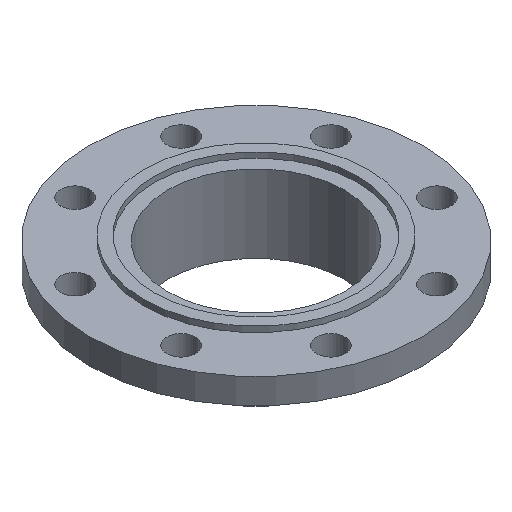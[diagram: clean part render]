
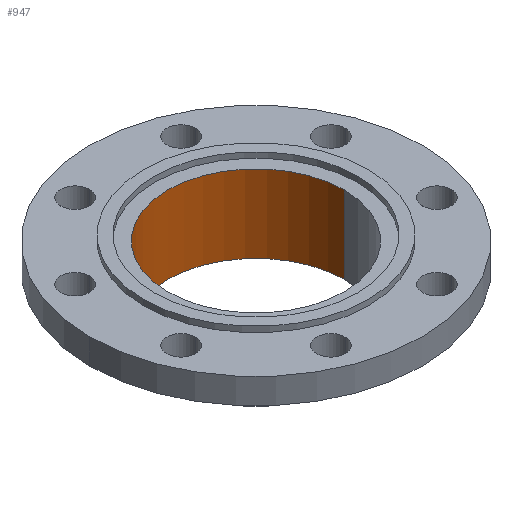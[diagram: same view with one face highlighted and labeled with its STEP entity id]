
A CAD part, isometric view. The second image highlights one B-rep face of the part: STEP entity #947.
In plain terms, the highlighted cylindrical face has radius 79.65 mm (diameter 159.3 mm), a partial arc.
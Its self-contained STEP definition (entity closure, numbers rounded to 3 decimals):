
#69 = CARTESIAN_POINT ( 'NONE',  ( 79.65, 0., -85. ) ) ;
#74 = VERTEX_POINT ( 'NONE', #300 ) ;
#116 = EDGE_CURVE ( 'NONE', #74, #427, #807, .T. ) ;
#167 = DIRECTION ( 'NONE',  ( 0., 0., -1. ) ) ;
#171 = VECTOR ( 'NONE', #304, 1000. ) ;
#193 = CIRCLE ( 'NONE', #203, 79.65 ) ;
#203 = AXIS2_PLACEMENT_3D ( 'NONE', #1010, #167, #611 ) ;
#275 = CIRCLE ( 'NONE', #597, 79.65 ) ;
#300 = CARTESIAN_POINT ( 'NONE',  ( -79.65, 0., -5. ) ) ;
#304 = DIRECTION ( 'NONE',  ( 0., 0., -1. ) ) ;
#344 = EDGE_LOOP ( 'NONE', ( #497, #515, #521, #527 ) ) ;
#357 = CARTESIAN_POINT ( 'NONE',  ( -79.65, 0., -75. ) ) ;
#361 = VERTEX_POINT ( 'NONE', #746 ) ;
#374 = DIRECTION ( 'NONE',  ( 1., 0., 0. ) ) ;
#387 = CARTESIAN_POINT ( 'NONE',  ( 0., 0., -85. ) ) ;
#427 = VERTEX_POINT ( 'NONE', #357 ) ;
#453 = EDGE_CURVE ( 'NONE', #765, #361, #927, .T. ) ;
#497 = ORIENTED_EDGE ( 'NONE', *, *, #453, .F. ) ;
#506 = DIRECTION ( 'NONE',  ( 0., 0., -1. ) ) ;
#515 = ORIENTED_EDGE ( 'NONE', *, *, #923, .F. ) ;
#521 = ORIENTED_EDGE ( 'NONE', *, *, #116, .T. ) ;
#527 = ORIENTED_EDGE ( 'NONE', *, *, #909, .T. ) ;
#584 = CARTESIAN_POINT ( 'NONE',  ( 79.65, 0., -5. ) ) ;
#597 = AXIS2_PLACEMENT_3D ( 'NONE', #851, #1177, #374 ) ;
#611 = DIRECTION ( 'NONE',  ( -1., 0., 0. ) ) ;
#684 = AXIS2_PLACEMENT_3D ( 'NONE', #387, #780, #1099 ) ;
#746 = CARTESIAN_POINT ( 'NONE',  ( 79.65, 0., -75. ) ) ;
#765 = VERTEX_POINT ( 'NONE', #584 ) ;
#780 = DIRECTION ( 'NONE',  ( 0., 0., -1. ) ) ;
#783 = VECTOR ( 'NONE', #506, 1000. ) ;
#807 = LINE ( 'NONE', #1128, #171 ) ;
#851 = CARTESIAN_POINT ( 'NONE',  ( 0., 0., -5. ) ) ;
#854 = FACE_OUTER_BOUND ( 'NONE', #344, .T. ) ;
#909 = EDGE_CURVE ( 'NONE', #427, #361, #193, .T. ) ;
#923 = EDGE_CURVE ( 'NONE', #74, #765, #275, .T. ) ;
#927 = LINE ( 'NONE', #69, #783 ) ;
#947 = ADVANCED_FACE ( 'NONE', ( #854 ), #1182, .F. ) ;
#1010 = CARTESIAN_POINT ( 'NONE',  ( 0., 0., -75. ) ) ;
#1099 = DIRECTION ( 'NONE',  ( -1., 0., 0. ) ) ;
#1128 = CARTESIAN_POINT ( 'NONE',  ( -79.65, 0., -85. ) ) ;
#1177 = DIRECTION ( 'NONE',  ( 0., 0., -1. ) ) ;
#1182 = CYLINDRICAL_SURFACE ( 'NONE', #684, 79.65 ) ;
